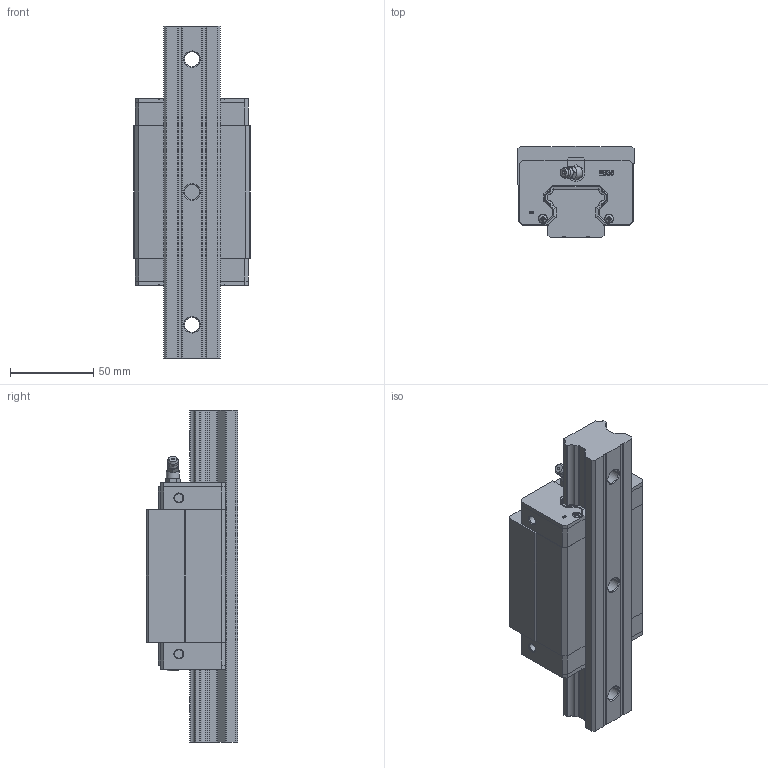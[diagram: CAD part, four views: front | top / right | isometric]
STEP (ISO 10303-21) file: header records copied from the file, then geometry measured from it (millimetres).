
FILE_DESCRIPTION(/* description */ (''),/* implementation_level */ '2;1');
FILE_NAME(/* name */ 'HBH35CA.stp',/* time_stamp */ '2024-09-29T20:50:06+08:00',/* author */ (''),/* organization */ (''),/* preprocessor_version */ 'ST-DEVELOPER v16.7',/* originating_system */ 'SIEMENS PLM Software NX 12.0',/* authorisation */ '');
FILE_SCHEMA (('AUTOMOTIVE_DESIGN { 1 0 10303 214 3 1 1 1 }'));
Products named in the file (3): HBH35CA; HBR35; HBH35CA_stp
Assembly tree (2 placements, depth 2):
  HBH35CA_stp
    HBR35
    HBH35CA
Bounding box: 70 x 55 x 200 mm (x, y, z)
Volume: 161427.2 mm3; surface area: 69988.3 mm2
Topology: 7 solids, 8 shells, 984 faces, 2628 edges, 1702 vertices
Faces by surface type: plane 579, cylinder 161, extrusion 133, cone 71, bspline 32, torus 7, sphere 1
Full cylindrical faces by diameter (mm): 3 x1, 3.2 x4, 3.7 x1, 5 x4, 5.5 x4, 6.4 x2, 6.8 x28, 7.8 x1, 8 x2, 8.3 x1
Entity records: 65829 total; most frequent: CARTESIAN_POINT 37671, ORIENTED_EDGE 4936, DIRECTION 3990, EDGE_CURVE 2468, VECTOR 1638, VERTEX_POINT 1618, LINE 1505, AXIS2_PLACEMENT_3D 1176
